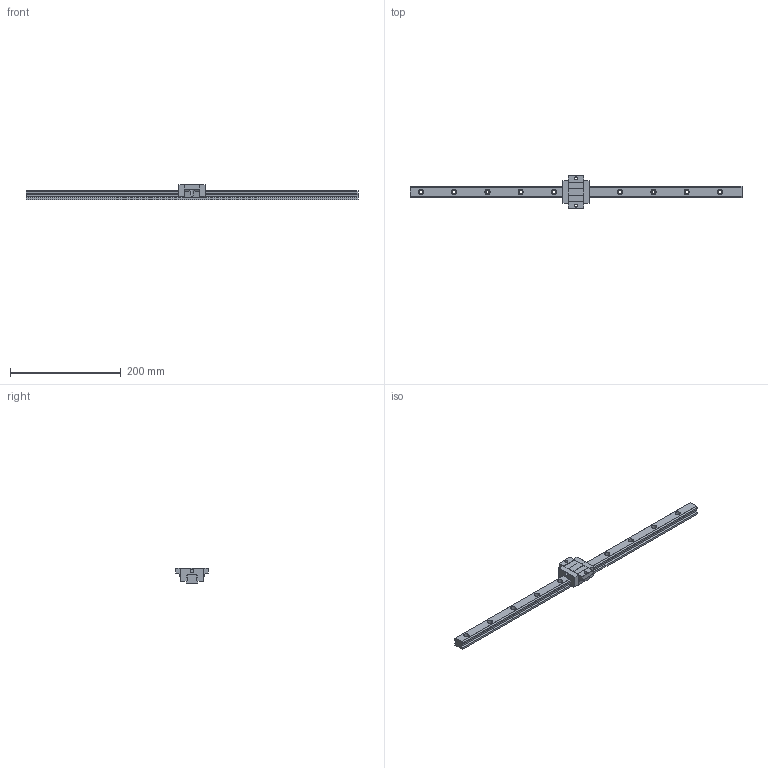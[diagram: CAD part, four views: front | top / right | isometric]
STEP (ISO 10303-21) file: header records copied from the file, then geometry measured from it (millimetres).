
FILE_DESCRIPTION (( 'STEP AP203' ), '1' );
FILE_NAME ('TRS20FS-XNC.STEP', '2024-08-16T07:08:49', ( '' ), ( '' ), 'SwSTEP 2.0', 'SolidWorks 2021', '' );
FILE_SCHEMA (( 'CONFIG_CONTROL_DESIGN' ));
Length unit declared in the file: millimetre
Products named in the file (1): TRS20FS-XNC
Bounding box: 600 x 59 x 28 mm (x, y, z)
Volume: 206904.4 mm3; surface area: 58422.9 mm2
Topology: 1 solids, 1 shells, 207 faces, 562 edges, 362 vertices
Faces by surface type: cylinder 104, plane 99, sphere 4
Entity records: 6829 total; most frequent: CARTESIAN_POINT 1354, DIRECTION 1156, ORIENTED_EDGE 1116, EDGE_CURVE 558, AXIS2_PLACEMENT_3D 404, VERTEX_POINT 362, LINE 348, VECTOR 348
